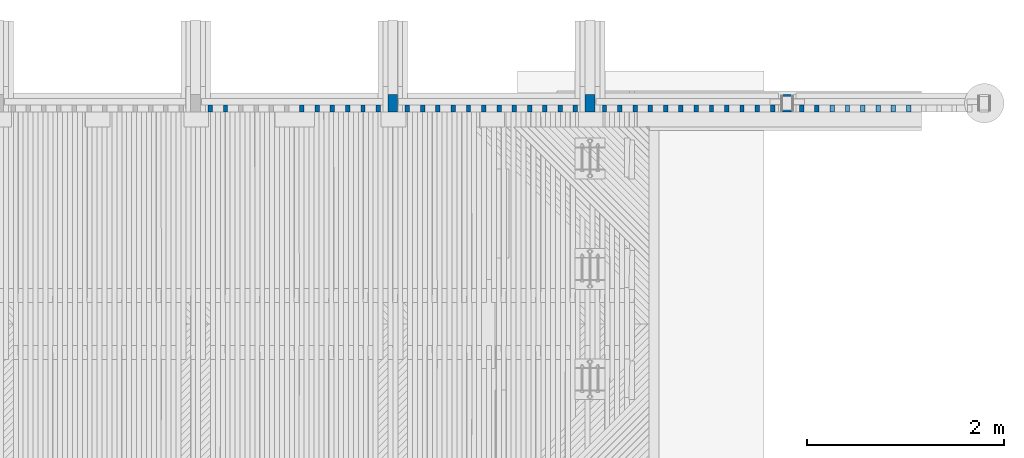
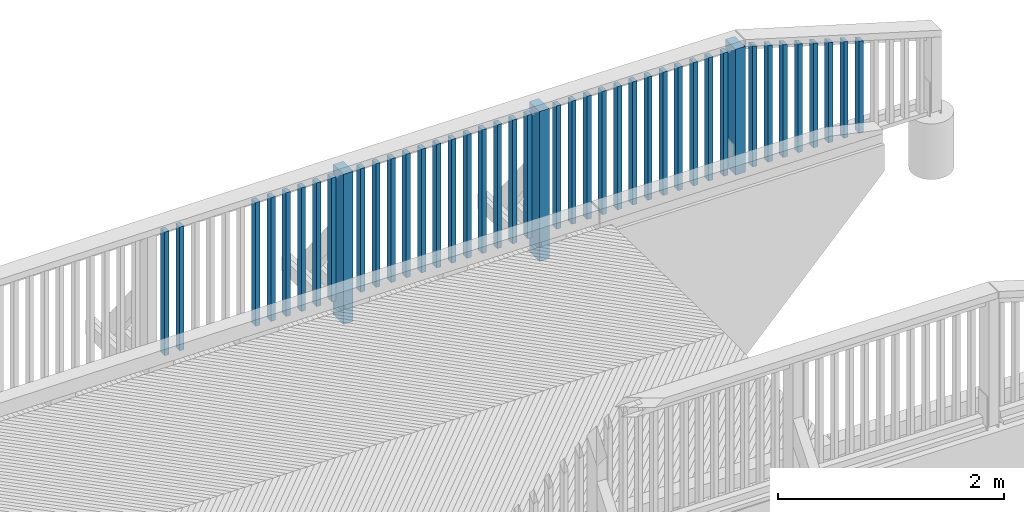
# One storey, part 11 of 53: 43 columns.
"""IFC2X3 building model written with IfcOpenShell, lengths in millimetres."""

from ifc_helpers import new_model, si_unit, frame, origin_with_axes, place, context, subcontext, project, spatial, faceted_brep, material, type_object, element, save


model = new_model("IFC2X3")

# Units and contexts
model_context = context("Model", 3, precision=1e-05, world=origin_with_axes())
body_context = subcontext(model_context, "Body", "Model", "MODEL_VIEW")
ifc_project = project(units=[si_unit("LENGTHUNIT", "METRE", prefix="MILLI"), si_unit("AREAUNIT", "SQUARE_METRE"), si_unit("VOLUMEUNIT", "CUBIC_METRE"), si_unit("MASSUNIT", "GRAM", prefix="KILO"), si_unit("TIMEUNIT", "SECOND"), si_unit("PLANEANGLEUNIT", "RADIAN"), si_unit("SOLIDANGLEUNIT", "STERADIAN"), si_unit("THERMODYNAMICTEMPERATUREUNIT", "DEGREE_CELSIUS"), si_unit("LUMINOUSINTENSITYUNIT", "LUMEN")], contexts=[model_context])

# Site, building, storey
site_placement = place(None, origin_with_axes())
site = spatial("IfcSite", under=ifc_project, at=site_placement, Name="Undefined", CompositionType="ELEMENT")
building_placement = place(site_placement, origin_with_axes())
building = spatial("IfcBuilding", under=site, at=building_placement, Name="Undefined", CompositionType="ELEMENT")
storey_placement = place(building_placement, origin_with_axes())
storey = spatial("IfcBuildingStorey", under=building, at=storey_placement, Name="Undefined", CompositionType="ELEMENT", Elevation=0.0)

# Columns
ifc_material = material(Name="TIMBER/Timber_Undefined")
column_type_1 = type_object("IfcColumnType", Name="180*100", PredefinedType="NOTDEFINED")
column_1_placement = place(storey_placement, frame((17999.9999992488, 44604.9879080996, 3128.37999999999), z_axis=(0.0, -1.0, 0.0), x_axis=(0.0, 0.0, 1.0)))
element("IfcColumn", 1, at=column_1_placement, inside=storey, type_object=column_type_1, material=ifc_material, Name="KAIDEPYLVÄS", ObjectType="180*100", context=body_context, shape_type="Brep", body=[
    faceted_brep([(-5.71000000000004, 50.0, -90.0), (-5.71000000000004, 50.0, 90.0), (1352.87649222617, 50.0, 90.0), (1352.87649222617, 50.0, -90.0), (-5.71000000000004, -50.0, 90.0), (1351.21940355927, -50.0, 90.0), (-5.71000000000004, -50.0, -90.0), (1351.21940355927, -50.0, -90.0)], [[[0, 1, 2, 3]], [[1, 4, 5, 2]], [[4, 6, 7, 5]], [[6, 0, 3, 7]], [[5, 7, 3, 2]], [[6, 4, 1, 0]]]),
])
for number, where, z_axis, x_axis in (
    (2, (16000.0000678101, 44604.9879081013, 2890.26004297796), (0.0, -1.0, 0.0), (0.0, 0.0, 1.0)),
    (3, (14000.0000678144, 44604.9879081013, 2913.4617669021), (0.0, -1.0, 0.0), (0.0, 0.0, 1.0)),
):
    element("IfcColumn", number, at=place(storey_placement, frame(where, z_axis=z_axis, x_axis=x_axis)), inside=storey, type_object=column_type_1, material=ifc_material, Name="KAIDEPYLVÄS", ObjectType="180*100", context=body_context, shape_type="Brep", body=[
        faceted_brep([(0.0, 50.0, -89.9999999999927), (0.0, 50.0, 90.0), (1620.0, 50.0, 90.0), (1620.0, 50.0, -90.0), (0.0, -49.9999999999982, 90.0000000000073), (1620.0, -50.0, 90.0), (-3.63797880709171e-12, -49.9999999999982, -90.0), (1620.0, -50.0, -90.0)], [[[0, 1, 2, 3]], [[1, 4, 5, 2]], [[4, 6, 7, 5]], [[6, 0, 3, 7]], [[5, 7, 3, 2]], [[6, 4, 1, 0]]]),
    ])
column_type_2 = type_object("IfcColumnType", Name="70*45", PredefinedType="NOTDEFINED")
column_2_placement = place(storey_placement, frame((18147.4999992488, 44549.9879080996, 3079.15), z_axis=(0.0, 1.0, 0.0), x_axis=(0.0, 0.0, 1.0)))
element("IfcColumn", 4, at=column_2_placement, inside=storey, type_object=column_type_2, material=ifc_material, Name="BEAM", ObjectType="70*45", context=body_context, shape_type="Brep", body=[
    faceted_brep([(68.7510555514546, 22.5, -35.0), (68.7510555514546, 22.5, 35.0), (1362.51131766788, 22.5, 35.0), (1362.51131766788, 22.5, -35.0), (69.4380529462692, -22.5, 35.0), (1375.94682334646, -22.5, 35.0), (69.4380529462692, -22.5, -35.0), (1375.94682334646, -22.5, -35.0)], [[[0, 1, 2, 3]], [[1, 4, 5, 2]], [[4, 6, 7, 5]], [[6, 0, 3, 7]], [[5, 7, 3, 2]], [[6, 4, 1, 0]]]),
])
column_3_placement = place(storey_placement, frame((18302.4999992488, 44549.9879080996, 3079.15), z_axis=(0.0, 1.0, 0.0), x_axis=(0.0, 0.0, 1.0)))
element("IfcColumn", 5, at=column_3_placement, inside=storey, type_object=column_type_2, material=ifc_material, Name="BEAM", ObjectType="70*45", context=body_context, shape_type="Brep", body=[
    faceted_brep([(66.3847311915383, 22.5, -35.0), (66.3847311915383, 22.5, 35.0), (1316.23346477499, 22.5, 35.0), (1316.23346477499, 22.5, -35.0), (67.0717285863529, -22.5, 35.0), (1329.66897045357, -22.5, 35.0), (67.0717285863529, -22.5, -35.0), (1329.66897045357, -22.5, -35.0)], [[[0, 1, 2, 3]], [[1, 4, 5, 2]], [[4, 6, 7, 5]], [[6, 0, 3, 7]], [[5, 7, 3, 2]], [[6, 4, 1, 0]]]),
])
column_4_placement = place(storey_placement, frame((18457.4999992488, 44549.9879080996, 3079.15), z_axis=(0.0, 1.0, 0.0), x_axis=(0.0, 0.0, 1.0)))
element("IfcColumn", 6, at=column_4_placement, inside=storey, type_object=column_type_2, material=ifc_material, Name="BEAM", ObjectType="70*45", context=body_context, shape_type="Brep", body=[
    faceted_brep([(64.0184068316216, 22.5, -35.0), (64.0184068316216, 22.5, 35.0), (1269.95561188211, 22.5, 35.0), (1269.95561188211, 22.5, -35.0), (64.7054042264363, -22.5, 35.0), (1283.39111756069, -22.5, 35.0), (64.7054042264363, -22.5, -35.0), (1283.39111756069, -22.5, -35.0)], [[[0, 1, 2, 3]], [[1, 4, 5, 2]], [[4, 6, 7, 5]], [[6, 0, 3, 7]], [[5, 7, 3, 2]], [[6, 4, 1, 0]]]),
])
column_5_placement = place(storey_placement, frame((18612.4999992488, 44549.9879080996, 3079.15), z_axis=(0.0, 1.0, 0.0), x_axis=(0.0, 0.0, 1.0)))
element("IfcColumn", 7, at=column_5_placement, inside=storey, type_object=column_type_2, material=ifc_material, Name="BEAM", ObjectType="70*45", context=body_context, shape_type="Brep", body=[
    faceted_brep([(61.6520824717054, 22.5, -35.0), (61.6520824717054, 22.5, 35.0), (1223.67775898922, 22.5, 35.0), (1223.67775898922, 22.5, -35.0), (62.3390798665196, -22.5, 35.0), (1237.1132646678, -22.5, 35.0), (62.3390798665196, -22.5, -35.0), (1237.1132646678, -22.5, -35.0)], [[[0, 1, 2, 3]], [[1, 4, 5, 2]], [[4, 6, 7, 5]], [[6, 0, 3, 7]], [[5, 7, 3, 2]], [[6, 4, 1, 0]]]),
])
column_6_placement = place(storey_placement, frame((18767.4999992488, 44549.9879080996, 3079.15), z_axis=(0.0, 1.0, 0.0), x_axis=(0.0, 0.0, 1.0)))
element("IfcColumn", 8, at=column_6_placement, inside=storey, type_object=column_type_2, material=ifc_material, Name="BEAM", ObjectType="70*45", context=body_context, shape_type="Brep", body=[
    faceted_brep([(59.2857581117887, 22.5, -35.0), (59.2857581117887, 22.5, 35.0), (1177.39990609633, 22.5, 35.0), (1177.39990609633, 22.5, -35.0), (59.9727555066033, -22.5, 35.0), (1190.83541177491, -22.5, 35.0), (59.9727555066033, -22.5, -35.0), (1190.83541177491, -22.5, -35.0)], [[[0, 1, 2, 3]], [[1, 4, 5, 2]], [[4, 6, 7, 5]], [[6, 0, 3, 7]], [[5, 7, 3, 2]], [[6, 4, 1, 0]]]),
])
column_7_placement = place(storey_placement, frame((18922.4999992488, 44549.9879080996, 3079.15), z_axis=(0.0, 1.0, 0.0), x_axis=(0.0, 0.0, 1.0)))
element("IfcColumn", 9, at=column_7_placement, inside=storey, type_object=column_type_2, material=ifc_material, Name="BEAM", ObjectType="70*45", context=body_context, shape_type="Brep", body=[
    faceted_brep([(56.9194337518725, 22.5, -35.0), (56.9194337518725, 22.5, 35.0), (1131.12205320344, 22.5, 35.0), (1131.12205320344, 22.5, -35.0), (57.6064311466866, -22.5, 35.0), (1144.55755888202, -22.5, 35.0), (57.6064311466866, -22.5, -35.0), (1144.55755888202, -22.5, -35.0)], [[[0, 1, 2, 3]], [[1, 4, 5, 2]], [[4, 6, 7, 5]], [[6, 0, 3, 7]], [[5, 7, 3, 2]], [[6, 4, 1, 0]]]),
])
column_8_placement = place(storey_placement, frame((19077.4999992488, 44549.9879080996, 3079.15), z_axis=(0.0, 1.0, 0.0), x_axis=(0.0, 0.0, 1.0)))
element("IfcColumn", 10, at=column_8_placement, inside=storey, type_object=column_type_2, material=ifc_material, Name="BEAM", ObjectType="70*45", context=body_context, shape_type="Brep", body=[
    faceted_brep([(54.5531093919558, 22.5, -35.0), (54.5531093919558, 22.5, 35.0), (1084.84420031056, 22.5, 35.0), (1084.84420031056, 22.5, -35.0), (55.2401067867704, -22.5, 35.0), (1098.27970598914, -22.5, 35.0), (55.2401067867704, -22.5, -35.0), (1098.27970598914, -22.5, -35.0)], [[[0, 1, 2, 3]], [[1, 4, 5, 2]], [[4, 6, 7, 5]], [[6, 0, 3, 7]], [[5, 7, 3, 2]], [[6, 4, 1, 0]]]),
])
column_9_placement = place(storey_placement, frame((19232.4999992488, 44549.9879080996, 3079.15), z_axis=(0.0, 1.0, 0.0), x_axis=(0.0, 0.0, 1.0)))
element("IfcColumn", 11, at=column_9_placement, inside=storey, type_object=column_type_2, material=ifc_material, Name="BEAM", ObjectType="70*45", context=body_context, shape_type="Brep", body=[
    faceted_brep([(52.1867850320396, 22.5, -35.0), (52.1867850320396, 22.5, 35.0), (1038.56634741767, 22.5, 35.0), (1038.56634741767, 22.5, -35.0), (52.8737824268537, -22.5, 35.0), (1052.00185309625, -22.5, 35.0), (52.8737824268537, -22.5, -35.0), (1052.00185309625, -22.5, -35.0)], [[[0, 1, 2, 3]], [[1, 4, 5, 2]], [[4, 6, 7, 5]], [[6, 0, 3, 7]], [[5, 7, 3, 2]], [[6, 4, 1, 0]]]),
])
column_10_placement = place(storey_placement, frame((16147.4999992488, 44549.9879080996, 3109.68000000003), z_axis=(0.0, 1.0, 0.0), x_axis=(0.0, 0.0, 1.0)))
element("IfcColumn", 12, at=column_10_placement, inside=storey, type_object=column_type_2, material=ifc_material, Name="BEAM", ObjectType="70*45", context=body_context, shape_type="Brep", body=[
    faceted_brep([(68.7510555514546, 22.5, -35.0), (68.7510555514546, 22.5, 35.0), (1398.75105555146, 22.5, 35.0), (1398.75105555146, 22.5, -35.0), (69.4380529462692, -22.5, 35.0), (1399.43805294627, -22.5, 35.0), (69.4380529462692, -22.5, -35.0), (1399.43805294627, -22.5, -35.0)], [[[0, 1, 2, 3]], [[1, 4, 5, 2]], [[4, 6, 7, 5]], [[6, 0, 3, 7]], [[5, 7, 3, 2]], [[6, 4, 1, 0]]]),
])
column_11_placement = place(storey_placement, frame((16302.4999992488, 44549.9879080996, 3109.68000000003), z_axis=(0.0, 1.0, 0.0), x_axis=(0.0, 0.0, 1.0)))
element("IfcColumn", 13, at=column_11_placement, inside=storey, type_object=column_type_2, material=ifc_material, Name="BEAM", ObjectType="70*45", context=body_context, shape_type="Brep", body=[
    faceted_brep([(66.3847311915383, 22.5, -35.0), (66.3847311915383, 22.5, 35.0), (1396.38473119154, 22.5, 35.0), (1396.38473119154, 22.5, -35.0), (67.0717285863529, -22.5, 35.0), (1397.07172858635, -22.5, 35.0), (67.0717285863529, -22.5, -35.0), (1397.07172858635, -22.5, -35.0)], [[[0, 1, 2, 3]], [[1, 4, 5, 2]], [[4, 6, 7, 5]], [[6, 0, 3, 7]], [[5, 7, 3, 2]], [[6, 4, 1, 0]]]),
])
column_12_placement = place(storey_placement, frame((16457.4999992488, 44549.9879080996, 3109.68000000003), z_axis=(0.0, 1.0, 0.0), x_axis=(0.0, 0.0, 1.0)))
element("IfcColumn", 14, at=column_12_placement, inside=storey, type_object=column_type_2, material=ifc_material, Name="BEAM", ObjectType="70*45", context=body_context, shape_type="Brep", body=[
    faceted_brep([(64.0184068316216, 22.5, -35.0), (64.0184068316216, 22.5, 35.0), (1394.01840683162, 22.5, 35.0), (1394.01840683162, 22.5, -35.0), (64.7054042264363, -22.5, 35.0), (1394.70540422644, -22.5, 35.0), (64.7054042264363, -22.5, -35.0), (1394.70540422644, -22.5, -35.0)], [[[0, 1, 2, 3]], [[1, 4, 5, 2]], [[4, 6, 7, 5]], [[6, 0, 3, 7]], [[5, 7, 3, 2]], [[6, 4, 1, 0]]]),
])
column_13_placement = place(storey_placement, frame((16612.4999992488, 44549.9879080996, 3109.68000000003), z_axis=(0.0, 1.0, 0.0), x_axis=(0.0, 0.0, 1.0)))
element("IfcColumn", 15, at=column_13_placement, inside=storey, type_object=column_type_2, material=ifc_material, Name="BEAM", ObjectType="70*45", context=body_context, shape_type="Brep", body=[
    faceted_brep([(61.6520824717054, 22.5, -35.0), (61.6520824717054, 22.5, 35.0), (1391.65208247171, 22.5, 35.0), (1391.65208247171, 22.5, -35.0), (62.3390798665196, -22.5, 35.0), (1392.33907986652, -22.5, 35.0), (62.3390798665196, -22.5, -35.0), (1392.33907986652, -22.5, -35.0)], [[[0, 1, 2, 3]], [[1, 4, 5, 2]], [[4, 6, 7, 5]], [[6, 0, 3, 7]], [[5, 7, 3, 2]], [[6, 4, 1, 0]]]),
])
column_14_placement = place(storey_placement, frame((16767.4999992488, 44549.9879080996, 3109.68000000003), z_axis=(0.0, 1.0, 0.0), x_axis=(0.0, 0.0, 1.0)))
element("IfcColumn", 16, at=column_14_placement, inside=storey, type_object=column_type_2, material=ifc_material, Name="BEAM", ObjectType="70*45", context=body_context, shape_type="Brep", body=[
    faceted_brep([(59.2857581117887, 22.5, -35.0), (59.2857581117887, 22.5, 35.0), (1389.28575811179, 22.5, 35.0), (1389.28575811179, 22.5, -35.0), (59.9727555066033, -22.5, 35.0), (1389.97275550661, -22.5, 35.0), (59.9727555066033, -22.5, -35.0), (1389.97275550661, -22.5, -35.0)], [[[0, 1, 2, 3]], [[1, 4, 5, 2]], [[4, 6, 7, 5]], [[6, 0, 3, 7]], [[5, 7, 3, 2]], [[6, 4, 1, 0]]]),
])
column_15_placement = place(storey_placement, frame((16922.4999992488, 44549.9879080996, 3109.68000000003), z_axis=(0.0, 1.0, 0.0), x_axis=(0.0, 0.0, 1.0)))
element("IfcColumn", 17, at=column_15_placement, inside=storey, type_object=column_type_2, material=ifc_material, Name="BEAM", ObjectType="70*45", context=body_context, shape_type="Brep", body=[
    faceted_brep([(56.9194337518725, 22.5, -35.0), (56.9194337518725, 22.5, 35.0), (1386.91943375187, 22.5, 35.0), (1386.91943375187, 22.5, -35.0), (57.6064311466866, -22.5, 35.0), (1387.60643114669, -22.5, 35.0), (57.6064311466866, -22.5, -35.0), (1387.60643114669, -22.5, -35.0)], [[[0, 1, 2, 3]], [[1, 4, 5, 2]], [[4, 6, 7, 5]], [[6, 0, 3, 7]], [[5, 7, 3, 2]], [[6, 4, 1, 0]]]),
])
column_16_placement = place(storey_placement, frame((17077.4999992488, 44549.9879080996, 3109.68000000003), z_axis=(0.0, 1.0, 0.0), x_axis=(0.0, 0.0, 1.0)))
element("IfcColumn", 18, at=column_16_placement, inside=storey, type_object=column_type_2, material=ifc_material, Name="BEAM", ObjectType="70*45", context=body_context, shape_type="Brep", body=[
    faceted_brep([(54.5531093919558, 22.5, -35.0), (54.5531093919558, 22.5, 35.0), (1384.55310939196, 22.5, 35.0), (1384.55310939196, 22.5, -35.0), (55.2401067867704, -22.5, 35.0), (1385.24010678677, -22.5, 35.0), (55.2401067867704, -22.5, -35.0), (1385.24010678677, -22.5, -35.0)], [[[0, 1, 2, 3]], [[1, 4, 5, 2]], [[4, 6, 7, 5]], [[6, 0, 3, 7]], [[5, 7, 3, 2]], [[6, 4, 1, 0]]]),
])
column_17_placement = place(storey_placement, frame((17232.4999992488, 44549.9879080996, 3109.68000000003), z_axis=(0.0, 1.0, 0.0), x_axis=(0.0, 0.0, 1.0)))
element("IfcColumn", 19, at=column_17_placement, inside=storey, type_object=column_type_2, material=ifc_material, Name="BEAM", ObjectType="70*45", context=body_context, shape_type="Brep", body=[
    faceted_brep([(52.1867850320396, 22.5, -35.0), (52.1867850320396, 22.5, 35.0), (1382.18678503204, 22.5, 35.0), (1382.18678503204, 22.5, -35.0), (52.8737824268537, -22.5, 35.0), (1382.87378242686, -22.5, 35.0), (52.8737824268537, -22.5, -35.0), (1382.87378242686, -22.5, -35.0)], [[[0, 1, 2, 3]], [[1, 4, 5, 2]], [[4, 6, 7, 5]], [[6, 0, 3, 7]], [[5, 7, 3, 2]], [[6, 4, 1, 0]]]),
])
column_18_placement = place(storey_placement, frame((17387.4999992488, 44549.9879080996, 3109.68000000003), z_axis=(0.0, 1.0, 0.0), x_axis=(0.0, 0.0, 1.0)))
element("IfcColumn", 20, at=column_18_placement, inside=storey, type_object=column_type_2, material=ifc_material, Name="BEAM", ObjectType="70*45", context=body_context, shape_type="Brep", body=[
    faceted_brep([(49.8204606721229, 22.5, -35.0), (49.8204606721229, 22.5, 35.0), (1379.82046067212, 22.5, 35.0), (1379.82046067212, 22.5, -35.0), (50.5074580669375, -22.5, 35.0), (1380.50745806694, -22.5, 35.0), (50.5074580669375, -22.5, -35.0), (1380.50745806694, -22.5, -35.0)], [[[0, 1, 2, 3]], [[1, 4, 5, 2]], [[4, 6, 7, 5]], [[6, 0, 3, 7]], [[5, 7, 3, 2]], [[6, 4, 1, 0]]]),
])
column_19_placement = place(storey_placement, frame((17542.4999992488, 44549.9879080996, 3109.68000000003), z_axis=(0.0, 1.0, 0.0), x_axis=(0.0, 0.0, 1.0)))
element("IfcColumn", 21, at=column_19_placement, inside=storey, type_object=column_type_2, material=ifc_material, Name="BEAM", ObjectType="70*45", context=body_context, shape_type="Brep", body=[
    faceted_brep([(47.4541363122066, 22.5, -35.0), (47.4541363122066, 22.5, 35.0), (1377.45413631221, 22.5, 35.0), (1377.45413631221, 22.5, -35.0), (48.1411337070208, -22.5, 35.0), (1378.14113370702, -22.5, 35.0), (48.1411337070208, -22.5, -35.0), (1378.14113370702, -22.5, -35.0)], [[[0, 1, 2, 3]], [[1, 4, 5, 2]], [[4, 6, 7, 5]], [[6, 0, 3, 7]], [[5, 7, 3, 2]], [[6, 4, 1, 0]]]),
])
column_20_placement = place(storey_placement, frame((17697.4999992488, 44549.9879080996, 3109.68000000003), z_axis=(0.0, 1.0, 0.0), x_axis=(0.0, 0.0, 1.0)))
element("IfcColumn", 22, at=column_20_placement, inside=storey, type_object=column_type_2, material=ifc_material, Name="BEAM", ObjectType="70*45", context=body_context, shape_type="Brep", body=[
    faceted_brep([(45.0878119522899, 22.5, -35.0), (45.0878119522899, 22.5, 35.0), (1375.08781195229, 22.5, 35.0), (1375.08781195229, 22.5, -35.0), (45.7748093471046, -22.5, 35.0), (1375.77480934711, -22.5, 35.0), (45.7748093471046, -22.5, -35.0), (1375.77480934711, -22.5, -35.0)], [[[0, 1, 2, 3]], [[1, 4, 5, 2]], [[4, 6, 7, 5]], [[6, 0, 3, 7]], [[5, 7, 3, 2]], [[6, 4, 1, 0]]]),
])
column_21_placement = place(storey_placement, frame((17852.4999992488, 44549.9879080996, 3109.68000000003), z_axis=(0.0, 1.0, 0.0), x_axis=(0.0, 0.0, 1.0)))
element("IfcColumn", 23, at=column_21_placement, inside=storey, type_object=column_type_2, material=ifc_material, Name="BEAM", ObjectType="70*45", context=body_context, shape_type="Brep", body=[
    faceted_brep([(42.7214875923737, 22.5, -35.0), (42.7214875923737, 22.5, 35.0), (1372.72148759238, 22.5, 35.0), (1372.72148759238, 22.5, -35.0), (43.4084849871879, -22.5, 35.0), (1373.40848498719, -22.5, 35.0), (43.4084849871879, -22.5, -35.0), (1373.40848498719, -22.5, -35.0)], [[[0, 1, 2, 3]], [[1, 4, 5, 2]], [[4, 6, 7, 5]], [[6, 0, 3, 7]], [[5, 7, 3, 2]], [[6, 4, 1, 0]]]),
])
column_22_placement = place(storey_placement, frame((15852.5000007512, 44549.9879080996, 3109.68000000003), z_axis=(0.0, 1.0, 0.0), x_axis=(0.0, 0.0, 1.0)))
element("IfcColumn", 24, at=column_22_placement, inside=storey, type_object=column_type_2, material=ifc_material, Name="BEAM", ObjectType="70*45", context=body_context, shape_type="Brep", body=[
    faceted_brep([(66.4906826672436, 22.5, -35.0), (66.4906826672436, 22.5, 35.0), (1401.49590164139, 22.5, 35.0), (1401.49590164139, 22.5, -35.0), (67.040197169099, -22.5, 35.0), (1402.04541614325, -22.5, 35.0), (67.040197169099, -22.5, -35.0), (1402.04541614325, -22.5, -35.0)], [[[0, 1, 2, 3]], [[1, 4, 5, 2]], [[4, 6, 7, 5]], [[6, 0, 3, 7]], [[5, 7, 3, 2]], [[6, 4, 1, 0]]]),
])
column_23_placement = place(storey_placement, frame((15697.5000007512, 44549.9879080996, 3109.68000000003), z_axis=(0.0, 1.0, 0.0), x_axis=(0.0, 0.0, 1.0)))
element("IfcColumn", 25, at=column_23_placement, inside=storey, type_object=column_type_2, material=ifc_material, Name="BEAM", ObjectType="70*45", context=body_context, shape_type="Brep", body=[
    faceted_brep([(68.383454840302, 22.5, -35.0), (68.383454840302, 22.5, 35.0), (1403.38867381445, 22.5, 35.0), (1403.38867381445, 22.5, -35.0), (68.9329693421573, -22.5, 35.0), (1403.93818831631, -22.5, 35.0), (68.9329693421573, -22.5, -35.0), (1403.93818831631, -22.5, -35.0)], [[[0, 1, 2, 3]], [[1, 4, 5, 2]], [[4, 6, 7, 5]], [[6, 0, 3, 7]], [[5, 7, 3, 2]], [[6, 4, 1, 0]]]),
])
column_24_placement = place(storey_placement, frame((15542.5000007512, 44549.9879080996, 3109.68000000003), z_axis=(0.0, 1.0, 0.0), x_axis=(0.0, 0.0, 1.0)))
element("IfcColumn", 26, at=column_24_placement, inside=storey, type_object=column_type_2, material=ifc_material, Name="BEAM", ObjectType="70*45", context=body_context, shape_type="Brep", body=[
    faceted_brep([(70.2762270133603, 22.5, -35.0), (70.2762270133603, 22.5, 35.0), (1405.28144598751, 22.5, 35.0), (1405.28144598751, 22.5, -35.0), (70.8257415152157, -22.5, 35.0), (1405.83096048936, -22.5, 35.0), (70.8257415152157, -22.5, -35.0), (1405.83096048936, -22.5, -35.0)], [[[0, 1, 2, 3]], [[1, 4, 5, 2]], [[4, 6, 7, 5]], [[6, 0, 3, 7]], [[5, 7, 3, 2]], [[6, 4, 1, 0]]]),
])
column_25_placement = place(storey_placement, frame((15387.5000007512, 44549.9879080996, 3109.68000000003), z_axis=(0.0, 1.0, 0.0), x_axis=(0.0, 0.0, 1.0)))
element("IfcColumn", 27, at=column_25_placement, inside=storey, type_object=column_type_2, material=ifc_material, Name="BEAM", ObjectType="70*45", context=body_context, shape_type="Brep", body=[
    faceted_brep([(72.1689991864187, 22.5, -35.0), (72.1689991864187, 22.5, 35.0), (1407.17421816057, 22.5, 35.0), (1407.17421816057, 22.5, -35.0), (72.718513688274, -22.5, 35.0), (1407.72373266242, -22.5, 35.0), (72.718513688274, -22.5, -35.0), (1407.72373266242, -22.5, -35.0)], [[[0, 1, 2, 3]], [[1, 4, 5, 2]], [[4, 6, 7, 5]], [[6, 0, 3, 7]], [[5, 7, 3, 2]], [[6, 4, 1, 0]]]),
])
column_26_placement = place(storey_placement, frame((15232.5000007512, 44549.9879080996, 3109.68000000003), z_axis=(0.0, 1.0, 0.0), x_axis=(0.0, 0.0, 1.0)))
element("IfcColumn", 28, at=column_26_placement, inside=storey, type_object=column_type_2, material=ifc_material, Name="BEAM", ObjectType="70*45", context=body_context, shape_type="Brep", body=[
    faceted_brep([(74.0617713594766, 22.5, -35.0), (74.0617713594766, 22.5, 35.0), (1409.06699033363, 22.5, 35.0), (1409.06699033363, 22.5, -35.0), (74.6112858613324, -22.5, 35.0), (1409.61650483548, -22.5, 35.0), (74.6112858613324, -22.5, -35.0), (1409.61650483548, -22.5, -35.0)], [[[0, 1, 2, 3]], [[1, 4, 5, 2]], [[4, 6, 7, 5]], [[6, 0, 3, 7]], [[5, 7, 3, 2]], [[6, 4, 1, 0]]]),
])
column_27_placement = place(storey_placement, frame((15077.5000007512, 44549.9879080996, 3109.68000000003), z_axis=(0.0, 1.0, 0.0), x_axis=(0.0, 0.0, 1.0)))
element("IfcColumn", 29, at=column_27_placement, inside=storey, type_object=column_type_2, material=ifc_material, Name="BEAM", ObjectType="70*45", context=body_context, shape_type="Brep", body=[
    faceted_brep([(75.9545435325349, 22.5, -35.0), (75.9545435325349, 22.5, 35.0), (1410.95976250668, 22.5, 35.0), (1410.95976250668, 22.5, -35.0), (76.5040580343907, -22.5, 35.0), (1411.50927700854, -22.5, 35.0), (76.5040580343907, -22.5, -35.0), (1411.50927700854, -22.5, -35.0)], [[[0, 1, 2, 3]], [[1, 4, 5, 2]], [[4, 6, 7, 5]], [[6, 0, 3, 7]], [[5, 7, 3, 2]], [[6, 4, 1, 0]]]),
])
column_28_placement = place(storey_placement, frame((14922.5000007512, 44549.9879080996, 3109.68000000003), z_axis=(0.0, 1.0, 0.0), x_axis=(0.0, 0.0, 1.0)))
element("IfcColumn", 30, at=column_28_placement, inside=storey, type_object=column_type_2, material=ifc_material, Name="BEAM", ObjectType="70*45", context=body_context, shape_type="Brep", body=[
    faceted_brep([(77.8473157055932, 22.5, -35.0), (77.8473157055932, 22.5, 35.0), (1412.85253467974, 22.5, 35.0), (1412.85253467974, 22.5, -35.0), (78.3968302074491, -22.5, 35.0), (1413.4020491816, -22.5, 35.0), (78.3968302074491, -22.5, -35.0), (1413.4020491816, -22.5, -35.0)], [[[0, 1, 2, 3]], [[1, 4, 5, 2]], [[4, 6, 7, 5]], [[6, 0, 3, 7]], [[5, 7, 3, 2]], [[6, 4, 1, 0]]]),
])
column_29_placement = place(storey_placement, frame((14767.5000007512, 44549.9879080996, 3109.68000000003), z_axis=(0.0, 1.0, 0.0), x_axis=(0.0, 0.0, 1.0)))
element("IfcColumn", 31, at=column_29_placement, inside=storey, type_object=column_type_2, material=ifc_material, Name="BEAM", ObjectType="70*45", context=body_context, shape_type="Brep", body=[
    faceted_brep([(79.7400878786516, 22.5, -35.0), (79.7400878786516, 22.5, 35.0), (1414.7453068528, 22.5, 35.0), (1414.7453068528, 22.5, -35.0), (80.2896023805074, -22.5, 35.0), (1415.29482135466, -22.5, 35.0), (80.2896023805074, -22.5, -35.0), (1415.29482135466, -22.5, -35.0)], [[[0, 1, 2, 3]], [[1, 4, 5, 2]], [[4, 6, 7, 5]], [[6, 0, 3, 7]], [[5, 7, 3, 2]], [[6, 4, 1, 0]]]),
])
column_30_placement = place(storey_placement, frame((14612.5000007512, 44549.9879080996, 3109.68000000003), z_axis=(0.0, 1.0, 0.0), x_axis=(0.0, 0.0, 1.0)))
element("IfcColumn", 32, at=column_30_placement, inside=storey, type_object=column_type_2, material=ifc_material, Name="BEAM", ObjectType="70*45", context=body_context, shape_type="Brep", body=[
    faceted_brep([(81.6328600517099, 22.5, -35.0), (81.6328600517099, 22.5, 35.0), (1416.63807902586, 22.5, 35.0), (1416.63807902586, 22.5, -35.0), (82.1823745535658, -22.5, 35.0), (1417.18759352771, -22.5, 35.0), (82.1823745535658, -22.5, -35.0), (1417.18759352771, -22.5, -35.0)], [[[0, 1, 2, 3]], [[1, 4, 5, 2]], [[4, 6, 7, 5]], [[6, 0, 3, 7]], [[5, 7, 3, 2]], [[6, 4, 1, 0]]]),
])
column_31_placement = place(storey_placement, frame((14457.5000007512, 44549.9879080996, 3109.68000000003), z_axis=(0.0, 1.0, 0.0), x_axis=(0.0, 0.0, 1.0)))
element("IfcColumn", 33, at=column_31_placement, inside=storey, type_object=column_type_2, material=ifc_material, Name="BEAM", ObjectType="70*45", context=body_context, shape_type="Brep", body=[
    faceted_brep([(83.5256322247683, 22.5, -35.0), (83.5256322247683, 22.5, 35.0), (1418.53085119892, 22.5, 35.0), (1418.53085119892, 22.5, -35.0), (84.0751467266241, -22.5, 35.0), (1419.08036570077, -22.5, 35.0), (84.0751467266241, -22.5, -35.0), (1419.08036570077, -22.5, -35.0)], [[[0, 1, 2, 3]], [[1, 4, 5, 2]], [[4, 6, 7, 5]], [[6, 0, 3, 7]], [[5, 7, 3, 2]], [[6, 4, 1, 0]]]),
])
column_32_placement = place(storey_placement, frame((14302.5000007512, 44549.9879080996, 3109.68000000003), z_axis=(0.0, 1.0, 0.0), x_axis=(0.0, 0.0, 1.0)))
element("IfcColumn", 34, at=column_32_placement, inside=storey, type_object=column_type_2, material=ifc_material, Name="BEAM", ObjectType="70*45", context=body_context, shape_type="Brep", body=[
    faceted_brep([(85.4184043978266, 22.5, -35.0), (85.4184043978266, 22.5, 35.0), (1420.42362337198, 22.5, 35.0), (1420.42362337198, 22.5, -35.0), (85.9679188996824, -22.5, 35.0), (1420.97313787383, -22.5, 35.0), (85.9679188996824, -22.5, -35.0), (1420.97313787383, -22.5, -35.0)], [[[0, 1, 2, 3]], [[1, 4, 5, 2]], [[4, 6, 7, 5]], [[6, 0, 3, 7]], [[5, 7, 3, 2]], [[6, 4, 1, 0]]]),
])
column_33_placement = place(storey_placement, frame((14147.5000007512, 44549.9879080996, 3109.68000000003), z_axis=(0.0, 1.0, 0.0), x_axis=(0.0, 0.0, 1.0)))
element("IfcColumn", 35, at=column_33_placement, inside=storey, type_object=column_type_2, material=ifc_material, Name="BEAM", ObjectType="70*45", context=body_context, shape_type="Brep", body=[
    faceted_brep([(87.311176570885, 22.5, -35.0), (87.311176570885, 22.5, 35.0), (1422.31639554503, 22.5, 35.0), (1422.31639554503, 22.5, -35.0), (87.8606910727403, -22.5, 35.0), (1422.86591004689, -22.5, 35.0), (87.8606910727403, -22.5, -35.0), (1422.86591004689, -22.5, -35.0)], [[[0, 1, 2, 3]], [[1, 4, 5, 2]], [[4, 6, 7, 5]], [[6, 0, 3, 7]], [[5, 7, 3, 2]], [[6, 4, 1, 0]]]),
])
column_34_placement = place(storey_placement, frame((13852.5000007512, 44549.9879080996, 3109.68000000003), z_axis=(0.0, 1.0, 0.0), x_axis=(0.0, 0.0, 1.0)))
element("IfcColumn", 36, at=column_34_placement, inside=storey, type_object=column_type_2, material=ifc_material, Name="BEAM", ObjectType="70*45", context=body_context, shape_type="Brep", body=[
    faceted_brep([(89.433267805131, 22.5, -35.0), (89.433267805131, 22.5, 35.0), (1424.43593041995, 22.5, 35.0), (1424.43593041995, 22.5, -35.0), (89.8257652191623, -22.5, 35.0), (1424.82842783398, -22.5, 35.0), (89.8257652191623, -22.5, -35.0), (1424.82842783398, -22.5, -35.0)], [[[0, 1, 2, 3]], [[1, 4, 5, 2]], [[4, 6, 7, 5]], [[6, 0, 3, 7]], [[5, 7, 3, 2]], [[6, 4, 1, 0]]]),
])
column_35_placement = place(storey_placement, frame((13697.5000007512, 44549.9879080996, 3109.68000000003), z_axis=(0.0, 1.0, 0.0), x_axis=(0.0, 0.0, 1.0)))
element("IfcColumn", 37, at=column_35_placement, inside=storey, type_object=column_type_2, material=ifc_material, Name="BEAM", ObjectType="70*45", context=body_context, shape_type="Brep", body=[
    faceted_brep([(90.785203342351, 22.5, -35.0), (90.785203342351, 22.5, 35.0), (1425.78786595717, 22.5, 35.0), (1425.78786595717, 22.5, -35.0), (91.1777007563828, -22.5, 35.0), (1426.1803633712, -22.5, 35.0), (91.1777007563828, -22.5, -35.0), (1426.1803633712, -22.5, -35.0)], [[[0, 1, 2, 3]], [[1, 4, 5, 2]], [[4, 6, 7, 5]], [[6, 0, 3, 7]], [[5, 7, 3, 2]], [[6, 4, 1, 0]]]),
])
column_36_placement = place(storey_placement, frame((13542.5000007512, 44549.9879080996, 3109.68000000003), z_axis=(0.0, 1.0, 0.0), x_axis=(0.0, 0.0, 1.0)))
element("IfcColumn", 38, at=column_36_placement, inside=storey, type_object=column_type_2, material=ifc_material, Name="BEAM", ObjectType="70*45", context=body_context, shape_type="Brep", body=[
    faceted_brep([(92.137138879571, 22.5, -35.0), (92.137138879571, 22.5, 35.0), (1427.13980149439, 22.5, 35.0), (1427.13980149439, 22.5, -35.0), (92.5296362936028, -22.5, 35.0), (1427.53229890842, -22.5, 35.0), (92.5296362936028, -22.5, -35.0), (1427.53229890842, -22.5, -35.0)], [[[0, 1, 2, 3]], [[1, 4, 5, 2]], [[4, 6, 7, 5]], [[6, 0, 3, 7]], [[5, 7, 3, 2]], [[6, 4, 1, 0]]]),
])
column_37_placement = place(storey_placement, frame((13387.5000007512, 44549.9879080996, 3109.68000000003), z_axis=(0.0, 1.0, 0.0), x_axis=(0.0, 0.0, 1.0)))
element("IfcColumn", 39, at=column_37_placement, inside=storey, type_object=column_type_2, material=ifc_material, Name="BEAM", ObjectType="70*45", context=body_context, shape_type="Brep", body=[
    faceted_brep([(93.489074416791, 22.5, -35.0), (93.489074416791, 22.5, 35.0), (1428.49173703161, 22.5, 35.0), (1428.49173703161, 22.5, -35.0), (93.8815718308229, -22.5, 35.0), (1428.88423444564, -22.5, 35.0), (93.8815718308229, -22.5, -35.0), (1428.88423444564, -22.5, -35.0)], [[[0, 1, 2, 3]], [[1, 4, 5, 2]], [[4, 6, 7, 5]], [[6, 0, 3, 7]], [[5, 7, 3, 2]], [[6, 4, 1, 0]]]),
])
column_38_placement = place(storey_placement, frame((13232.5000007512, 44549.9879080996, 3109.68000000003), z_axis=(0.0, 1.0, 0.0), x_axis=(0.0, 0.0, 1.0)))
element("IfcColumn", 40, at=column_38_placement, inside=storey, type_object=column_type_2, material=ifc_material, Name="BEAM", ObjectType="70*45", context=body_context, shape_type="Brep", body=[
    faceted_brep([(94.841009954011, 22.5, -35.0), (94.841009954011, 22.5, 35.0), (1429.84367256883, 22.5, 35.0), (1429.84367256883, 22.5, -35.0), (95.2335073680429, -22.5, 35.0), (1430.23616998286, -22.5, 35.0), (95.2335073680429, -22.5, -35.0), (1430.23616998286, -22.5, -35.0)], [[[0, 1, 2, 3]], [[1, 4, 5, 2]], [[4, 6, 7, 5]], [[6, 0, 3, 7]], [[5, 7, 3, 2]], [[6, 4, 1, 0]]]),
])
column_39_placement = place(storey_placement, frame((13077.5000007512, 44549.9879080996, 3109.68000000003), z_axis=(0.0, 1.0, 0.0), x_axis=(0.0, 0.0, 1.0)))
element("IfcColumn", 41, at=column_39_placement, inside=storey, type_object=column_type_2, material=ifc_material, Name="BEAM", ObjectType="70*45", context=body_context, shape_type="Brep", body=[
    faceted_brep([(96.1929454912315, 22.5, -35.0), (96.1929454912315, 22.5, 35.0), (1431.19560810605, 22.5, 35.0), (1431.19560810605, 22.5, -35.0), (96.5854429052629, -22.5, 35.0), (1431.58810552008, -22.5, 35.0), (96.5854429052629, -22.5, -35.0), (1431.58810552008, -22.5, -35.0)], [[[0, 1, 2, 3]], [[1, 4, 5, 2]], [[4, 6, 7, 5]], [[6, 0, 3, 7]], [[5, 7, 3, 2]], [[6, 4, 1, 0]]]),
])
column_40_placement = place(storey_placement, frame((12302.5000007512, 44549.9879080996, 3109.68000000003), z_axis=(0.0, 1.0, 0.0), x_axis=(0.0, 0.0, 1.0)))
element("IfcColumn", 42, at=column_40_placement, inside=storey, type_object=column_type_2, material=ifc_material, Name="BEAM", ObjectType="70*45", context=body_context, shape_type="Brep", body=[
    faceted_brep([(102.952623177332, 22.5, -35.0), (102.952623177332, 22.5, 35.0), (1437.95528579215, 22.5, 35.0), (1437.95528579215, 22.5, -35.0), (103.345120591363, -22.5, 35.0), (1438.34778320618, -22.5, 35.0), (103.345120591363, -22.5, -35.0), (1438.34778320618, -22.5, -35.0)], [[[0, 1, 2, 3]], [[1, 4, 5, 2]], [[4, 6, 7, 5]], [[6, 0, 3, 7]], [[5, 7, 3, 2]], [[6, 4, 1, 0]]]),
])
column_41_placement = place(storey_placement, frame((12147.5000007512, 44549.9879080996, 3109.68000000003), z_axis=(0.0, 1.0, 0.0), x_axis=(0.0, 0.0, 1.0)))
element("IfcColumn", 43, at=column_41_placement, inside=storey, type_object=column_type_2, material=ifc_material, Name="BEAM", ObjectType="70*45", context=body_context, shape_type="Brep", body=[
    faceted_brep([(104.304558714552, 22.5, -35.0), (104.304558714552, 22.5, 35.0), (1439.30722132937, 22.5, 35.0), (1439.30722132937, 22.5, -35.0), (104.697056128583, -22.5, 35.0), (1439.6997187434, -22.5, 35.0), (104.697056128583, -22.5, -35.0), (1439.6997187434, -22.5, -35.0)], [[[0, 1, 2, 3]], [[1, 4, 5, 2]], [[4, 6, 7, 5]], [[6, 0, 3, 7]], [[5, 7, 3, 2]], [[6, 4, 1, 0]]]),
])

save(model, "model.ifc")
